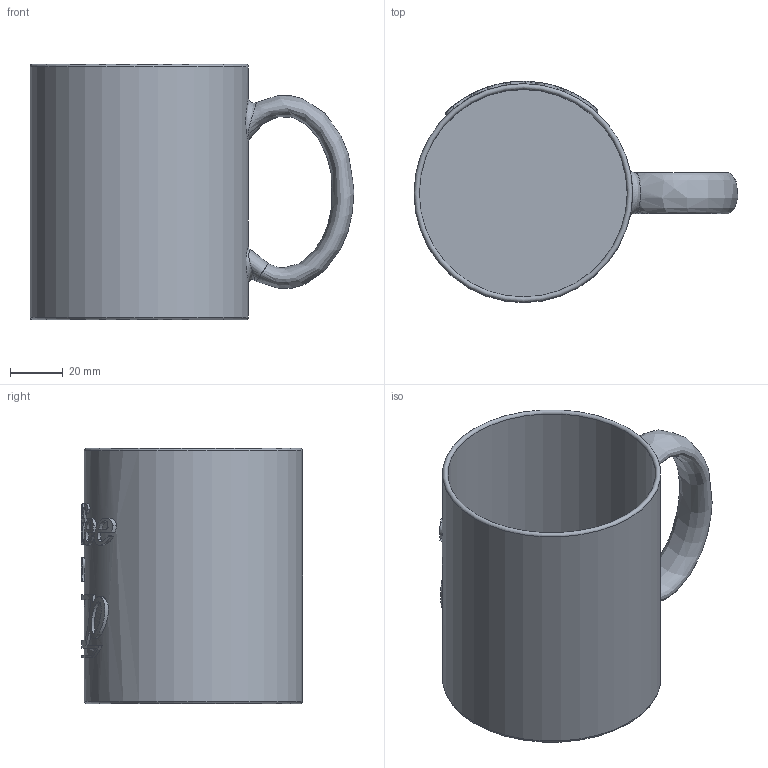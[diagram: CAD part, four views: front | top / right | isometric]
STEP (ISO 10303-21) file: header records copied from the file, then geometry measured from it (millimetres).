
FILE_DESCRIPTION(/* description */ (''),/* implementation_level */ '2;1');
FILE_NAME(/* name */ 'Taza_Base.stp',/* time_stamp */ '2026-06-15T14:01:41+02:00',/* author */ ('algob'),/* organization */ (''),/* preprocessor_version */ 'ST-DEVELOPER v19.2',/* originating_system */ 'Autodesk Inventor 2024',/* authorisation */ '');
FILE_SCHEMA (('AUTOMOTIVE_DESIGN { 1 0 10303 214 3 1 1 }'));
Length unit declared in the file: millimetre
Products named in the file (1): Taza_Base
Bounding box: 123.08 x 84 x 97 mm (x, y, z)
Volume: 96282.9 mm3; surface area: 63208.4 mm2
Topology: 1 solids, 1 shells, 160 faces, 428 edges, 286 vertices
Faces by surface type: bspline 74, plane 57, cylinder 27, torus 2
Full cylindrical faces by diameter (mm): 79 x1, 83 x1
Entity records: 7984 total; most frequent: CARTESIAN_POINT 4350, ORIENTED_EDGE 856, DIRECTION 553, EDGE_CURVE 428, VERTEX_POINT 286, AXIS2_PLACEMENT_3D 209, EDGE_LOOP 178, B_SPLINE_CURVE_WITH_KNOTS 171
